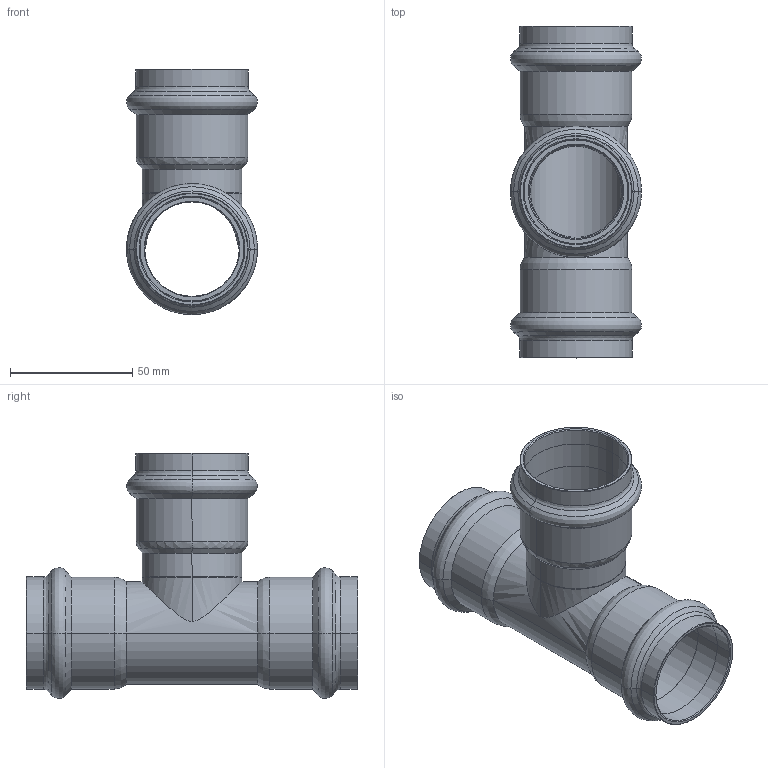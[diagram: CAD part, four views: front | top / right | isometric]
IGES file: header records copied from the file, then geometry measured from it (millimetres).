
Start section: Elysium IGES Interface
Global section: file name: C:\3d modellen sudo\C-Pr VP\SP8130V\8130VW42.igs; native system: CoCreate Modeling 17.00A  17-Jun-2010; preprocessor: CoCreate IGES_3D V2.2; author: Unknown; organization: Unknown; date: 20130129.162051; units: millimetre
Bounding box: 53.61 x 135.73 x 100.28 mm (x, y, z)
Volume: 54548.5 mm3; surface area: 53373.3 mm2
Topology: 1 solids, 1 shells, 128 faces, 266 edges, 142 vertices
Faces by surface type: bspline 128
